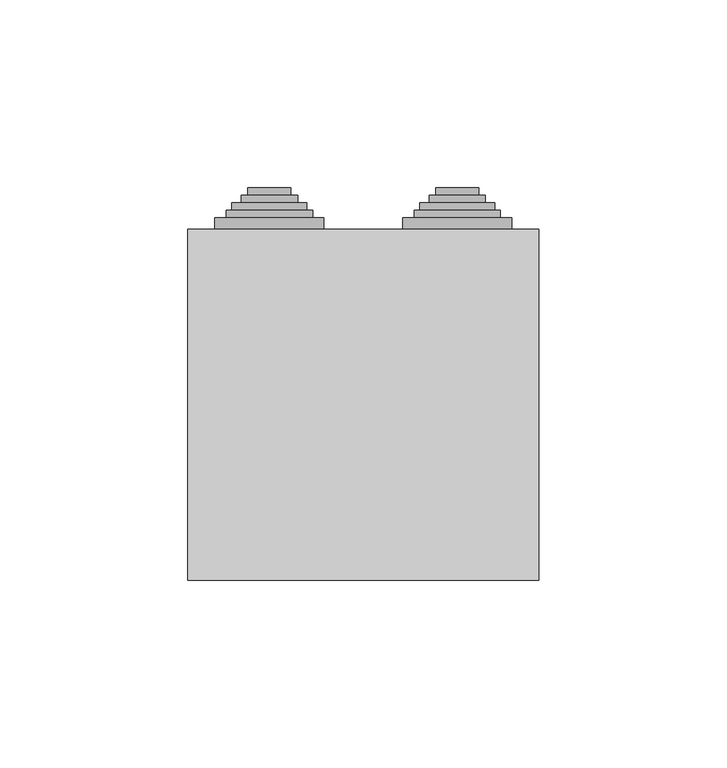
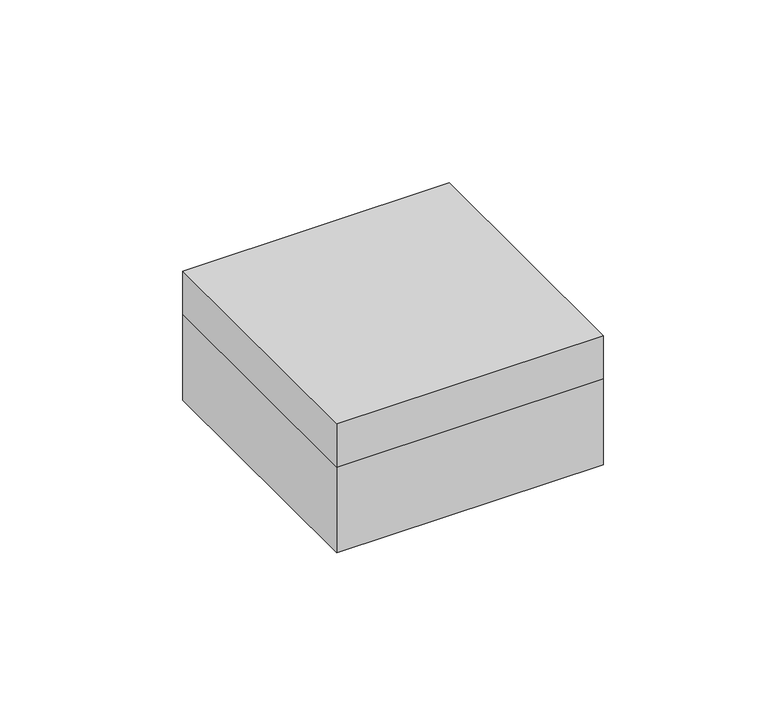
"""IFC4 building model written with IfcOpenShell, lengths in millimetres: cable carrier fitting geometry, КНС_КоробкаОтветвительнаяСКабельнымиВводами_8+2_IP55_DKC : с 8+2 кабельными вводами д.25/20мм, IP55,85х85х40мм."""

from ifc_helpers import new_model, si_unit, frame, origin, place, context, project, spatial, polyline, circle_curve, faceted_brep, source, transform, mapped, element, save
from ifc_brep_helpers import plane_surface, cylinder_surface, revolved_surface, advanced_brep


def cable_carrier_fitting_9309c744(model_context):
    return source(origin(), model_context, "Body", "SolidModel", [
        advanced_brep(
        [(13.5, 44.7, 15.9), (36.5, 44.7, 15.9), (39.5, 44.7, 15.9), (10.5, 44.7, 15.9), (13.5, 46.7, 15.9), (36.5, 46.7, 15.9), (10.5, 46.7, 15.9), (39.5, 46.7, 15.9), (10.5, 49.7, 15.9), (39.5, 49.7, 15.9), (13.5, 49.7, 15.9), (36.5, 49.7, 15.9), (13.5, 51.7, 15.9), (36.5, 51.7, 15.9), (15.0, 51.7, 15.9), (35.0, 51.7, 15.9), (15.0, 53.7, 15.9), (35.0, 53.7, 15.9), (17.5, 53.7, 15.9), (32.5, 53.7, 15.9), (17.5, 55.7, 15.9), (32.5, 55.7, 15.9), (19.25, 55.7, 15.9), (30.75, 55.7, 15.9), (19.25, 57.7, 15.9), (30.75, 57.7, 15.9), (25.0, 57.7, 15.9), (13.5, 41.7, 15.9), (36.5, 41.7, 15.9), (25.0, 41.7, 15.9), (10.5, 42.4491137, 15.9), (39.5, 42.4491137, 15.9)],
        [
            (0, 1, circle_curve(frame((25.0, 44.7, 15.9), z_axis=(0.0, -1.0, 0.0), x_axis=(1.0, 0.0, 0.0)), 11.5)),
            (1, 2),
            (2, 3, circle_curve(frame((25.0, 44.7, 15.9), z_axis=(0.0, 1.0, 0.0), x_axis=(1.0, 0.0, 0.0)), 14.5)),
            (3, 0),
            (1, 0, circle_curve(frame((25.0, 44.7, 15.9), z_axis=(0.0, -1.0, 0.0), x_axis=(1.0, 0.0, 0.0)), 11.5)),
            (3, 2, circle_curve(frame((25.0, 44.7, 15.9), z_axis=(0.0, 1.0, 0.0), x_axis=(1.0, 0.0, 0.0)), 14.5)),
            (4, 5, circle_curve(frame((25.0, 46.7, 15.9), z_axis=(0.0, -1.0, 0.0), x_axis=(1.0, 0.0, 0.0)), 11.5)),
            (5, 1),
            (0, 4),
            (5, 4, circle_curve(frame((25.0, 46.7, 15.9), z_axis=(0.0, -1.0, 0.0), x_axis=(1.0, 0.0, 0.0)), 11.5)),
            (6, 7, circle_curve(frame((25.0, 46.7, 15.9), z_axis=(0.0, -1.0, 0.0), x_axis=(1.0, 0.0, 0.0)), 14.5)),
            (7, 5),
            (4, 6),
            (7, 6, circle_curve(frame((25.0, 46.7, 15.9), z_axis=(0.0, -1.0, 0.0), x_axis=(1.0, 0.0, 0.0)), 14.5)),
            (8, 9, circle_curve(frame((25.0, 49.7, 15.9), z_axis=(0.0, -1.0, 0.0), x_axis=(1.0, 0.0, 0.0)), 14.5)),
            (9, 7),
            (6, 8),
            (9, 8, circle_curve(frame((25.0, 49.7, 15.9), z_axis=(0.0, -1.0, 0.0), x_axis=(1.0, 0.0, 0.0)), 14.5)),
            (10, 11, circle_curve(frame((25.0, 49.7, 15.9), z_axis=(0.0, -1.0, 0.0), x_axis=(1.0, 0.0, 0.0)), 11.5)),
            (11, 9),
            (8, 10),
            (11, 10, circle_curve(frame((25.0, 49.7, 15.9), z_axis=(0.0, -1.0, 0.0), x_axis=(1.0, 0.0, 0.0)), 11.5)),
            (12, 13, circle_curve(frame((25.0, 51.7, 15.9), z_axis=(0.0, -1.0, 0.0), x_axis=(1.0, 0.0, 0.0)), 11.5)),
            (13, 11),
            (10, 12),
            (13, 12, circle_curve(frame((25.0, 51.7, 15.9), z_axis=(0.0, -1.0, 0.0), x_axis=(1.0, 0.0, 0.0)), 11.5)),
            (14, 15, circle_curve(frame((25.0, 51.7, 15.9), z_axis=(0.0, -1.0, 0.0), x_axis=(1.0, 0.0, 0.0)), 10.0)),
            (15, 13),
            (12, 14),
            (15, 14, circle_curve(frame((25.0, 51.7, 15.9), z_axis=(0.0, -1.0, 0.0), x_axis=(1.0, 0.0, 0.0)), 10.0)),
            (16, 17, circle_curve(frame((25.0, 53.7, 15.9), z_axis=(0.0, -1.0, 0.0), x_axis=(1.0, 0.0, 0.0)), 10.0)),
            (17, 15),
            (14, 16),
            (17, 16, circle_curve(frame((25.0, 53.7, 15.9), z_axis=(0.0, -1.0, 0.0), x_axis=(1.0, 0.0, 0.0)), 10.0)),
            (18, 19, circle_curve(frame((25.0, 53.7, 15.9), z_axis=(0.0, -1.0, 0.0), x_axis=(1.0, 0.0, 0.0)), 7.5)),
            (19, 17),
            (16, 18),
            (19, 18, circle_curve(frame((25.0, 53.7, 15.9), z_axis=(0.0, -1.0, 0.0), x_axis=(1.0, 0.0, 0.0)), 7.5)),
            (20, 21, circle_curve(frame((25.0, 55.7, 15.9), z_axis=(0.0, -1.0, 0.0), x_axis=(1.0, 0.0, 0.0)), 7.5)),
            (21, 19),
            (18, 20),
            (21, 20, circle_curve(frame((25.0, 55.7, 15.9), z_axis=(0.0, -1.0, 0.0), x_axis=(1.0, 0.0, 0.0)), 7.5)),
            (22, 23, circle_curve(frame((25.0, 55.7, 15.9), z_axis=(0.0, -1.0, 0.0), x_axis=(1.0, 0.0, 0.0)), 5.75)),
            (23, 21),
            (20, 22),
            (23, 22, circle_curve(frame((25.0, 55.7, 15.9), z_axis=(0.0, -1.0, 0.0), x_axis=(1.0, 0.0, 0.0)), 5.75)),
            (24, 25, circle_curve(frame((25.0, 57.7, 15.9), z_axis=(0.0, -1.0, 0.0), x_axis=(1.0, 0.0, 0.0)), 5.75)),
            (25, 23),
            (22, 24),
            (25, 24, circle_curve(frame((25.0, 57.7, 15.9), z_axis=(0.0, -1.0, 0.0), x_axis=(1.0, 0.0, 0.0)), 5.75)),
            (26, 25),
            (24, 26),
            (27, 28, circle_curve(frame((25.0, 41.7, 15.9), z_axis=(0.0, -1.0, 0.0), x_axis=(1.0, 0.0, 0.0)), 11.5)),
            (28, 29),
            (29, 27),
            (28, 27, circle_curve(frame((25.0, 41.7, 15.9), z_axis=(0.0, -1.0, 0.0), x_axis=(1.0, 0.0, 0.0)), 11.5)),
            (30, 31, circle_curve(frame((25.0, 42.4491137, 15.9), z_axis=(0.0, -1.0, 0.0), x_axis=(1.0, 0.0, 0.0)), 14.5)),
            (31, 28),
            (27, 30),
            (31, 30, circle_curve(frame((25.0, 42.4491137, 15.9), z_axis=(0.0, -1.0, 0.0), x_axis=(1.0, 0.0, 0.0)), 14.5)),
            (2, 31),
            (30, 3),
        ],
        [
            plane_surface(frame((25.0, 44.7, 15.9), z_axis=(0.0, 1.0, 0.0), x_axis=(1.0, 0.0, 0.0))),
            cylinder_surface(frame((25.0, -1468.3, 15.9), z_axis=(0.0, 1.0, 0.0), x_axis=(1.0, 0.0, 0.0)), 11.5),
            plane_surface(frame((25.0, 46.7, 15.9), z_axis=(0.0, -1.0, 0.0), x_axis=(1.0, 0.0, 0.0))),
            cylinder_surface(frame((25.0, -1468.3, 15.9), z_axis=(0.0, 1.0, 0.0), x_axis=(1.0, 0.0, 0.0)), 14.5),
            plane_surface(frame((25.0, 49.7, 15.9), z_axis=(0.0, 1.0, 0.0), x_axis=(1.0, 0.0, 0.0))),
            plane_surface(frame((25.0, 51.7, 15.9), z_axis=(0.0, 1.0, 0.0), x_axis=(1.0, 0.0, 0.0))),
            cylinder_surface(frame((25.0, -1468.3, 15.9), z_axis=(0.0, 1.0, 0.0), x_axis=(1.0, 0.0, 0.0)), 10.0),
            plane_surface(frame((25.0, 53.7, 15.9), z_axis=(0.0, 1.0, 0.0), x_axis=(1.0, 0.0, 0.0))),
            cylinder_surface(frame((25.0, -1468.3, 15.9), z_axis=(0.0, 1.0, 0.0), x_axis=(1.0, 0.0, 0.0)), 7.5),
            plane_surface(frame((25.0, 55.7, 15.9), z_axis=(0.0, 1.0, 0.0), x_axis=(1.0, 0.0, 0.0))),
            cylinder_surface(frame((25.0, -1468.3, 15.9), z_axis=(0.0, 1.0, 0.0), x_axis=(1.0, 0.0, 0.0)), 5.75),
            plane_surface(frame((25.0, 57.7, 15.9), z_axis=(0.0, 1.0, 0.0), x_axis=(1.0, 0.0, 0.0))),
            plane_surface(frame((25.0, 41.7, 15.9), z_axis=(0.0, -1.0, 0.0), x_axis=(1.0, 0.0, 0.0))),
            revolved_surface(polyline([(36.5, 41.7, 15.9), (39.5, 42.4491137, 15.9)]), (25.0, -1468.3, 15.9), (0.0, 1.0, 0.0)),
        ],
        [
            (0, [[1, 2, 3, 4]]),
            (0, [[5, -4, 6, -2]]),
            (1, [[7, 8, -1, 9]]),
            (1, [[10, -9, -5, -8]]),
            (2, [[11, 12, -7, 13]]),
            (2, [[14, -13, -10, -12]]),
            (3, [[15, 16, -11, 17]]),
            (3, [[18, -17, -14, -16]]),
            (4, [[19, 20, -15, 21]]),
            (4, [[22, -21, -18, -20]]),
            (1, [[23, 24, -19, 25]]),
            (1, [[26, -25, -22, -24]]),
            (5, [[27, 28, -23, 29]]),
            (5, [[30, -29, -26, -28]]),
            (6, [[31, 32, -27, 33]]),
            (6, [[34, -33, -30, -32]]),
            (7, [[35, 36, -31, 37]]),
            (7, [[38, -37, -34, -36]]),
            (8, [[39, 40, -35, 41]]),
            (8, [[42, -41, -38, -40]]),
            (9, [[43, 44, -39, 45]]),
            (9, [[46, -45, -42, -44]]),
            (10, [[47, 48, -43, 49]]),
            (10, [[50, -49, -46, -48]]),
            (11, [[51, -47, 52]]),
            (11, [[-52, -50, -51]]),
            (12, [[53, 54, 55]]),
            (12, [[56, -55, -54]]),
            (13, [[57, 58, -53, 59]]),
            (13, [[60, -59, -56, -58]]),
            (3, [[-3, 61, -57, 62]]),
            (3, [[-6, -62, -60, -61]]),
        ],
    ),
        advanced_brep(
        [(-36.5, 44.7, 15.9), (-13.5, 44.7, 15.9), (-10.5, 44.7, 15.9), (-39.5, 44.7, 15.9), (-36.5, 46.7, 15.9), (-13.5, 46.7, 15.9), (-39.5, 46.7, 15.9), (-10.5, 46.7, 15.9), (-39.5, 49.7, 15.9), (-10.5, 49.7, 15.9), (-36.5, 49.7, 15.9), (-13.5, 49.7, 15.9), (-36.5, 51.7, 15.9), (-13.5, 51.7, 15.9), (-35.0, 51.7, 15.9), (-15.0, 51.7, 15.9), (-35.0, 53.7, 15.9), (-15.0, 53.7, 15.9), (-32.5, 53.7, 15.9), (-17.5, 53.7, 15.9), (-32.5, 55.7, 15.9), (-17.5, 55.7, 15.9), (-30.75, 55.7, 15.9), (-19.25, 55.7, 15.9), (-30.75, 57.7, 15.9), (-19.25, 57.7, 15.9), (-25.0, 57.7, 15.9), (-36.5, 41.7, 15.9), (-13.5, 41.7, 15.9), (-25.0, 41.7, 15.9), (-39.5, 42.4491137, 15.9), (-10.5, 42.4491137, 15.9)],
        [
            (0, 1, circle_curve(frame((-25.0, 44.7, 15.9), z_axis=(0.0, -1.0, 0.0), x_axis=(1.0000000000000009, 0.0, 0.0)), 11.5)),
            (1, 2),
            (2, 3, circle_curve(frame((-25.0, 44.7, 15.9), z_axis=(0.0, 1.0, 0.0), x_axis=(1.0000000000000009, 0.0, 0.0)), 14.5)),
            (3, 0),
            (1, 0, circle_curve(frame((-25.0, 44.7, 15.9), z_axis=(0.0, -1.0, 0.0), x_axis=(1.0000000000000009, 0.0, 0.0)), 11.5)),
            (3, 2, circle_curve(frame((-25.0, 44.7, 15.9), z_axis=(0.0, 1.0, 0.0), x_axis=(1.0000000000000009, 0.0, 0.0)), 14.5)),
            (4, 5, circle_curve(frame((-25.0, 46.7, 15.9), z_axis=(0.0, -1.0, 0.0), x_axis=(1.0000000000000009, 0.0, 0.0)), 11.5)),
            (5, 1),
            (0, 4),
            (5, 4, circle_curve(frame((-25.0, 46.7, 15.9), z_axis=(0.0, -1.0, 0.0), x_axis=(1.0000000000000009, 0.0, 0.0)), 11.5)),
            (6, 7, circle_curve(frame((-25.0, 46.7, 15.9), z_axis=(0.0, -1.0, 0.0), x_axis=(1.0000000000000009, 0.0, 0.0)), 14.5)),
            (7, 5),
            (4, 6),
            (7, 6, circle_curve(frame((-25.0, 46.7, 15.9), z_axis=(0.0, -1.0, 0.0), x_axis=(1.0000000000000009, 0.0, 0.0)), 14.5)),
            (8, 9, circle_curve(frame((-25.0, 49.7, 15.9), z_axis=(0.0, -1.0, 0.0), x_axis=(1.0000000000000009, 0.0, 0.0)), 14.5)),
            (9, 7),
            (6, 8),
            (9, 8, circle_curve(frame((-25.0, 49.7, 15.9), z_axis=(0.0, -1.0, 0.0), x_axis=(1.0000000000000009, 0.0, 0.0)), 14.5)),
            (10, 11, circle_curve(frame((-25.0, 49.7, 15.9), z_axis=(0.0, -1.0, 0.0), x_axis=(1.0000000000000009, 0.0, 0.0)), 11.5)),
            (11, 9),
            (8, 10),
            (11, 10, circle_curve(frame((-25.0, 49.7, 15.9), z_axis=(0.0, -1.0, 0.0), x_axis=(1.0000000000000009, 0.0, 0.0)), 11.5)),
            (12, 13, circle_curve(frame((-25.0, 51.7, 15.9), z_axis=(0.0, -1.0, 0.0), x_axis=(1.0000000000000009, 0.0, 0.0)), 11.5)),
            (13, 11),
            (10, 12),
            (13, 12, circle_curve(frame((-25.0, 51.7, 15.9), z_axis=(0.0, -1.0, 0.0), x_axis=(1.0000000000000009, 0.0, 0.0)), 11.5)),
            (14, 15, circle_curve(frame((-25.0, 51.7, 15.9), z_axis=(0.0, -1.0, 0.0), x_axis=(1.0000000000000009, 0.0, 0.0)), 10.0)),
            (15, 13),
            (12, 14),
            (15, 14, circle_curve(frame((-25.0, 51.7, 15.9), z_axis=(0.0, -1.0, 0.0), x_axis=(1.0000000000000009, 0.0, 0.0)), 10.0)),
            (16, 17, circle_curve(frame((-25.0, 53.7, 15.9), z_axis=(0.0, -1.0, 0.0), x_axis=(1.0000000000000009, 0.0, 0.0)), 10.0)),
            (17, 15),
            (14, 16),
            (17, 16, circle_curve(frame((-25.0, 53.7, 15.9), z_axis=(0.0, -1.0, 0.0), x_axis=(1.0000000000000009, 0.0, 0.0)), 10.0)),
            (18, 19, circle_curve(frame((-25.0, 53.7, 15.9), z_axis=(0.0, -1.0, 0.0), x_axis=(1.0000000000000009, 0.0, 0.0)), 7.5)),
            (19, 17),
            (16, 18),
            (19, 18, circle_curve(frame((-25.0, 53.7, 15.9), z_axis=(0.0, -1.0, 0.0), x_axis=(1.0000000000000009, 0.0, 0.0)), 7.5)),
            (20, 21, circle_curve(frame((-25.0, 55.7, 15.9), z_axis=(0.0, -1.0, 0.0), x_axis=(1.0000000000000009, 0.0, 0.0)), 7.5)),
            (21, 19),
            (18, 20),
            (21, 20, circle_curve(frame((-25.0, 55.7, 15.9), z_axis=(0.0, -1.0, 0.0), x_axis=(1.0000000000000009, 0.0, 0.0)), 7.5)),
            (22, 23, circle_curve(frame((-25.0, 55.7, 15.9), z_axis=(0.0, -1.0, 0.0), x_axis=(1.0000000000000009, 0.0, 0.0)), 5.75)),
            (23, 21),
            (20, 22),
            (23, 22, circle_curve(frame((-25.0, 55.7, 15.9), z_axis=(0.0, -1.0, 0.0), x_axis=(1.0000000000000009, 0.0, 0.0)), 5.75)),
            (24, 25, circle_curve(frame((-25.0, 57.7, 15.9), z_axis=(0.0, -1.0, 0.0), x_axis=(1.0000000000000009, 0.0, 0.0)), 5.75)),
            (25, 23),
            (22, 24),
            (25, 24, circle_curve(frame((-25.0, 57.7, 15.9), z_axis=(0.0, -1.0, 0.0), x_axis=(1.0000000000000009, 0.0, 0.0)), 5.75)),
            (26, 25),
            (24, 26),
            (27, 28, circle_curve(frame((-25.0, 41.7, 15.9), z_axis=(0.0, -1.0, 0.0), x_axis=(1.0000000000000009, 0.0, 0.0)), 11.5)),
            (28, 29),
            (29, 27),
            (28, 27, circle_curve(frame((-25.0, 41.7, 15.9), z_axis=(0.0, -1.0, 0.0), x_axis=(1.0000000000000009, 0.0, 0.0)), 11.5)),
            (30, 31, circle_curve(frame((-25.0, 42.4491137, 15.9), z_axis=(0.0, -1.0, 0.0), x_axis=(1.0000000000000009, 0.0, 0.0)), 14.5)),
            (31, 28),
            (27, 30),
            (31, 30, circle_curve(frame((-25.0, 42.4491137, 15.9), z_axis=(0.0, -1.0, 0.0), x_axis=(1.0000000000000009, 0.0, 0.0)), 14.5)),
            (2, 31),
            (30, 3),
        ],
        [
            plane_surface(frame((-25.0, 44.7, 15.9), z_axis=(0.0, 1.0, 0.0), x_axis=(1.0, 0.0, 0.0))),
            cylinder_surface(frame((-25.0, -1468.3, 15.9), z_axis=(0.0, 1.0000000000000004, 0.0), x_axis=(1.0000000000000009, 0.0, 0.0)), 11.5),
            plane_surface(frame((-25.0, 46.7, 15.9), z_axis=(0.0, -1.0, 0.0), x_axis=(1.0, 0.0, 0.0))),
            cylinder_surface(frame((-25.0, -1468.3, 15.9), z_axis=(0.0, 1.0000000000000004, 0.0), x_axis=(1.0000000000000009, 0.0, 0.0)), 14.5),
            plane_surface(frame((-25.0, 49.7, 15.9), z_axis=(0.0, 1.0, 0.0), x_axis=(1.0, 0.0, 0.0))),
            plane_surface(frame((-25.0, 51.7, 15.9), z_axis=(0.0, 1.0, 0.0), x_axis=(1.0, 0.0, 0.0))),
            cylinder_surface(frame((-25.0, -1468.3, 15.9), z_axis=(0.0, 1.0000000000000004, 0.0), x_axis=(1.0000000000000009, 0.0, 0.0)), 10.0),
            plane_surface(frame((-25.0, 53.7, 15.9), z_axis=(0.0, 1.0, 0.0), x_axis=(1.0, 0.0, 0.0))),
            cylinder_surface(frame((-25.0, -1468.3, 15.9), z_axis=(0.0, 1.0000000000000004, 0.0), x_axis=(1.0000000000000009, 0.0, 0.0)), 7.5),
            plane_surface(frame((-25.0, 55.7, 15.9), z_axis=(0.0, 1.0, 0.0), x_axis=(1.0, 0.0, 0.0))),
            cylinder_surface(frame((-25.0, -1468.3, 15.9), z_axis=(0.0, 1.0000000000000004, 0.0), x_axis=(1.0000000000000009, 0.0, 0.0)), 5.75),
            plane_surface(frame((-25.0, 57.7, 15.9), z_axis=(0.0, 1.0, 0.0), x_axis=(1.0, 0.0, 0.0))),
            plane_surface(frame((-25.0, 41.7, 15.9), z_axis=(0.0, -1.0, 0.0), x_axis=(1.0, 0.0, 0.0))),
            revolved_surface(polyline([(-13.5, 41.7, 15.9), (-10.5, 42.4491137, 15.9)]), (-25.0, -1468.3, 15.9), (0.0, 1.0000000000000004, 0.0)),
        ],
        [
            (0, [[1, 2, 3, 4]]),
            (0, [[5, -4, 6, -2]]),
            (1, [[7, 8, -1, 9]]),
            (1, [[10, -9, -5, -8]]),
            (2, [[11, 12, -7, 13]]),
            (2, [[14, -13, -10, -12]]),
            (3, [[15, 16, -11, 17]]),
            (3, [[18, -17, -14, -16]]),
            (4, [[19, 20, -15, 21]]),
            (4, [[22, -21, -18, -20]]),
            (1, [[23, 24, -19, 25]]),
            (1, [[26, -25, -22, -24]]),
            (5, [[27, 28, -23, 29]]),
            (5, [[30, -29, -26, -28]]),
            (6, [[31, 32, -27, 33]]),
            (6, [[34, -33, -30, -32]]),
            (7, [[35, 36, -31, 37]]),
            (7, [[38, -37, -34, -36]]),
            (8, [[39, 40, -35, 41]]),
            (8, [[42, -41, -38, -40]]),
            (9, [[43, 44, -39, 45]]),
            (9, [[46, -45, -42, -44]]),
            (10, [[47, 48, -43, 49]]),
            (10, [[50, -49, -46, -48]]),
            (11, [[51, -47, 52]]),
            (11, [[-52, -50, -51]]),
            (12, [[53, 54, 55]]),
            (12, [[56, -55, -54]]),
            (13, [[57, 58, -53, 59]]),
            (13, [[60, -59, -56, -58]]),
            (3, [[-3, 61, -57, 62]]),
            (3, [[-6, -62, -60, -61]]),
        ],
    ),
        faceted_brep([(46.7, 46.7, 47.8), (-46.7, 46.7, 47.8), (-46.7, -46.7, 47.8), (46.7, -46.7, 47.8), (-44.7, -44.7, 45.8), (-44.7, 44.7, 45.8), (44.7, 44.7, 45.8), (44.7, -44.7, 45.8), (46.7, 46.7, 31.8), (46.7, -46.7, 31.8), (-46.7, -46.7, 31.8), (-46.7, 46.7, 31.8), (-44.7, -44.7, 31.8), (44.7, -44.7, 31.8), (44.7, 44.7, 31.8), (-44.7, 44.7, 31.8)], [[[0, 1, 2, 3]], [[4, 5, 6, 7]], [[8, 9, 10, 11], [12, 13, 14, 15]], [[1, 0, 8, 11]], [[2, 1, 11, 10]], [[3, 2, 10, 9]], [[0, 3, 9, 8]], [[12, 15, 5, 4]], [[15, 14, 6, 5]], [[14, 13, 7, 6]], [[13, 12, 4, 7]]]),
        advanced_brep(
        [(-44.7, -44.7, 2.0), (44.7, -44.7, 2.0), (44.7, 44.7, 2.0), (-44.7, 44.7, 2.0), (46.7, 46.7, 0.0), (46.7, -46.7, 0.0), (-46.7, -46.7, 0.0), (-46.7, 46.7, 0.0), (24.85, 0.0, 0.0), (44.85, 0.0, 0.0), (-44.85, 0.0, 0.0), (-24.85, 0.0, 0.0), (46.7, 46.7, 31.8), (-46.7, 46.7, 31.8), (-46.7, -46.7, 31.8), (46.7, -46.7, 31.8), (44.7, -44.7, 31.8), (-44.7, -44.7, 31.8), (-44.7, 44.7, 31.8), (44.7, 44.7, 31.8), (24.85, 0.0, 1.0), (44.85, 0.0, 1.0), (-44.85, 0.0, 1.0), (-24.85, 0.0, 1.0)],
        [
            (0, 1),
            (1, 2),
            (2, 3),
            (3, 0),
            (4, 5),
            (5, 6),
            (6, 7),
            (7, 4),
            (8, 9, circle_curve(frame((34.85, 0.0, 0.0), z_axis=(0.0, 0.0, 1.0), x_axis=(1.0, 0.0, 0.0)), 10.0)),
            (9, 8, circle_curve(frame((34.85, 0.0, 0.0), z_axis=(0.0, 0.0, 1.0), x_axis=(1.0, 0.0, 0.0)), 10.0)),
            (10, 11, circle_curve(frame((-34.85, 0.0, 0.0), z_axis=(0.0, 0.0, 1.0), x_axis=(1.0, 0.0, 0.0)), 10.0)),
            (11, 10, circle_curve(frame((-34.85, 0.0, 0.0), z_axis=(0.0, 0.0, 1.0), x_axis=(1.0, 0.0, 0.0)), 10.0)),
            (12, 13),
            (13, 14),
            (14, 15),
            (15, 12),
            (16, 17),
            (17, 18),
            (18, 19),
            (19, 16),
            (12, 4),
            (7, 13),
            (6, 14),
            (5, 15),
            (16, 1),
            (0, 17),
            (3, 18),
            (2, 19),
            (20, 21, circle_curve(frame((34.85, 0.0, 1.0), z_axis=(0.0, 0.0, -1.0), x_axis=(1.0, 0.0, 0.0)), 10.0)),
            (21, 20, circle_curve(frame((34.85, 0.0, 1.0), z_axis=(0.0, 0.0, -1.0), x_axis=(1.0, 0.0, 0.0)), 10.0)),
            (22, 23, circle_curve(frame((-34.85, 0.0, 1.0), z_axis=(0.0, 0.0, -1.0), x_axis=(1.0, 0.0, 0.0)), 10.0)),
            (23, 22, circle_curve(frame((-34.85, 0.0, 1.0), z_axis=(0.0, 0.0, -1.0), x_axis=(1.0, 0.0, 0.0)), 10.0)),
            (21, 9),
            (8, 20),
            (23, 11),
            (10, 22),
        ],
        [
            plane_surface(frame((-44.7, 44.7, 2.0), z_axis=(0.0, 0.0, 1.0), x_axis=(-1.0, 0.0, 0.0))),
            plane_surface(frame((-44.7, 44.7, 0.0), z_axis=(0.0, 0.0, -1.0), x_axis=(1.0, 0.0, 0.0))),
            plane_surface(frame((-46.7, 46.7, 31.8), z_axis=(0.0, 0.0, 1.0), x_axis=(-1.0, 0.0, 0.0))),
            plane_surface(frame((46.7, 46.7, 31.8), z_axis=(0.0, 1.0, 0.0), x_axis=(0.0, 0.0, -1.0))),
            plane_surface(frame((-46.7, 46.7, 31.8), z_axis=(-1.0, 0.0, 0.0), x_axis=(0.0, 0.0, -1.0))),
            plane_surface(frame((-46.7, -46.7, 31.8), z_axis=(0.0, -1.0, 0.0), x_axis=(0.0, 0.0, -1.0))),
            plane_surface(frame((46.7, -46.7, 31.8), z_axis=(1.0, 0.0, 0.0), x_axis=(0.0, 0.0, -1.0))),
            plane_surface(frame((44.7, -44.7, 31.8), z_axis=(0.0, 1.0, 0.0), x_axis=(0.0, 0.0, -1.0))),
            plane_surface(frame((-44.7, -44.7, 31.8), z_axis=(1.0, 0.0, 0.0), x_axis=(0.0, 0.0, -1.0))),
            plane_surface(frame((-44.7, 44.7, 31.8), z_axis=(0.0, -1.0, 0.0), x_axis=(0.0, 0.0, -1.0))),
            plane_surface(frame((44.7, 44.7, 31.8), z_axis=(-1.0, 0.0, 0.0), x_axis=(0.0, 0.0, -1.0))),
            plane_surface(frame((44.85, 0.0, 1.0), z_axis=(0.0, 0.0, -1.0), x_axis=(0.0, 1.0, 0.0))),
            revolved_surface(polyline([(44.85, 0.0, 1.0), (44.85, 0.0, 0.0)]), (34.85, 0.0, 0.0), (0.0, 0.0, 1.0)),
            revolved_surface(polyline([(-24.85, 0.0, 1.0), (-24.85, 0.0, 0.0)]), (-34.85, 0.0, 0.0), (0.0, 0.0, 1.0)),
        ],
        [
            (0, [[1, 2, 3, 4]]),
            (1, [[5, 6, 7, 8], [9, 10], [11, 12]]),
            (2, [[13, 14, 15, 16], [17, 18, 19, 20]]),
            (3, [[-13, 21, -8, 22]]),
            (4, [[-14, -22, -7, 23]]),
            (5, [[-15, -23, -6, 24]]),
            (6, [[-16, -24, -5, -21]]),
            (7, [[-17, 25, -1, 26]]),
            (8, [[-18, -26, -4, 27]]),
            (9, [[-19, -27, -3, 28]]),
            (10, [[-20, -28, -2, -25]]),
            (11, [[29, 30]]),
            (11, [[31, 32]]),
            (12, [[-30, 33, -9, 34]]),
            (12, [[-29, -34, -10, -33]]),
            (13, [[-32, 35, -11, 36]]),
            (13, [[-31, -36, -12, -35]]),
        ],
    ),
    ])


if __name__ == "__main__":
    model = new_model("IFC4")
    model_context = context("Model", 3, world=origin())
    ifc_project = project(units=[si_unit("LENGTHUNIT", "METRE", prefix="MILLI")], contexts=[model_context])
    site = spatial("IfcSite", under=ifc_project)
    building = spatial("IfcBuilding", under=site)
    placement = place(None, origin())
    cable_carrier_fitting_shape = cable_carrier_fitting_9309c744(model_context)
    element("IfcCableCarrierFitting", 1, ObjectType="КНС_КоробкаОтветвительнаяСКабельнымиВводами_8+2_IP55_DKC : с 8+2 кабельными вводами д.25/20мм, IP55,85х85х40мм", at=placement, inside=building, context=model_context, shape_type="MappedRepresentation", body=[
        mapped(cable_carrier_fitting_shape, transform((0.0, 0.0, 0.0), x_axis=(1.0, 0.0, 0.0), y_axis=(0.0, 1.0, 0.0), z_axis=(0.0, 0.0, 1.0))),
    ])
    save(model, "model.ifc")
